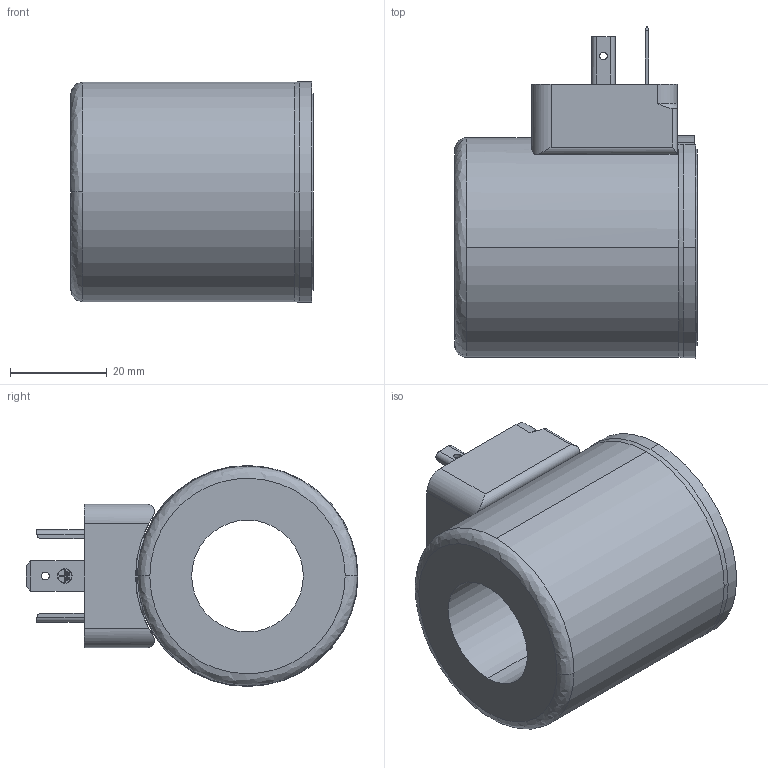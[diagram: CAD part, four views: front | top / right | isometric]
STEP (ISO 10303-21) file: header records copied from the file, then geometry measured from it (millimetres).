
FILE_DESCRIPTION (( 'STEP AP214' ), '1' );
FILE_NAME ('WDS45_23x50.STEP', '2014-03-19T08:55:33', ( '' ), ( '' ), 'SwSTEP 2.0', 'SolidWorks 2012', '' );
FILE_SCHEMA (( 'AUTOMOTIVE_DESIGN' ));
Length unit declared in the file: millimetre
Products named in the file (1): WDS45_23x50
Bounding box: 50.1 x 68.5 x 45.6 mm (x, y, z)
Volume: 70140.4 mm3; surface area: 16810.7 mm2
Topology: 1 solids, 1 shells, 400 faces, 1095 edges, 722 vertices
Faces by surface type: plane 286, cylinder 91, bspline 12, cone 11
Entity records: 14147 total; most frequent: CARTESIAN_POINT 2932, ORIENTED_EDGE 2190, DIRECTION 1992, EDGE_CURVE 1095, VECTOR 836, LINE 836, VERTEX_POINT 722, AXIS2_PLACEMENT_3D 578
